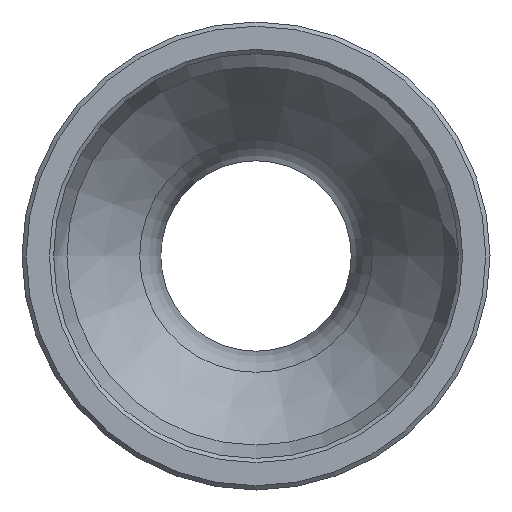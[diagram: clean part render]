
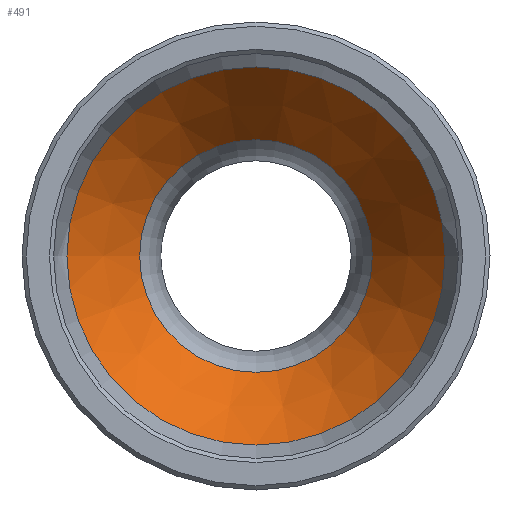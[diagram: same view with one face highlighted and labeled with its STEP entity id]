
A CAD part, left-side view. The second image highlights one B-rep face of the part: STEP entity #491.
In plain terms, the highlighted conical face has half-angle 35 degrees and reference radius 7.252 mm.
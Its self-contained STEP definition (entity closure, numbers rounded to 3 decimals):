
#457=CARTESIAN_POINT('',(-5.058,5.525,0.0));
#458=VERTEX_POINT('',#457);
#459=CARTESIAN_POINT('',(-5.058,0.0,0.0));
#460=DIRECTION('',(1.0,0.0,0.0));
#461=DIRECTION('',(0.0,1.0,0.0));
#462=AXIS2_PLACEMENT_3D('',#459,#460,#461);
#463=CIRCLE('',#462,5.525);
#464=EDGE_CURVE('',#458,#458,#463,.T.);
#472=CARTESIAN_POINT('',(-7.525,0.0,0.0));
#473=DIRECTION('',(-1.0,0.0,0.0));
#474=DIRECTION('',(0.0,1.0,0.0));
#475=AXIS2_PLACEMENT_3D('',#472,#473,#474);
#476=CONICAL_SURFACE('',#475,7.252,35.);
#477=CARTESIAN_POINT('',(-9.992,8.98,0.0));
#478=VERTEX_POINT('',#477);
#479=CARTESIAN_POINT('',(-9.992,0.0,0.0));
#480=DIRECTION('',(1.0,0.0,0.0));
#481=DIRECTION('',(0.0,1.0,0.0));
#482=AXIS2_PLACEMENT_3D('',#479,#480,#481);
#483=CIRCLE('',#482,8.98);
#484=EDGE_CURVE('',#478,#478,#483,.T.);
#485=ORIENTED_EDGE('',*,*,#484,.F.);
#486=EDGE_LOOP('',(#485));
#487=FACE_OUTER_BOUND('',#486,.T.);
#488=ORIENTED_EDGE('',*,*,#464,.T.);
#489=EDGE_LOOP('',(#488));
#490=FACE_BOUND('',#489,.T.);
#491=ADVANCED_FACE('',(#487,#490),#476,.F.);
